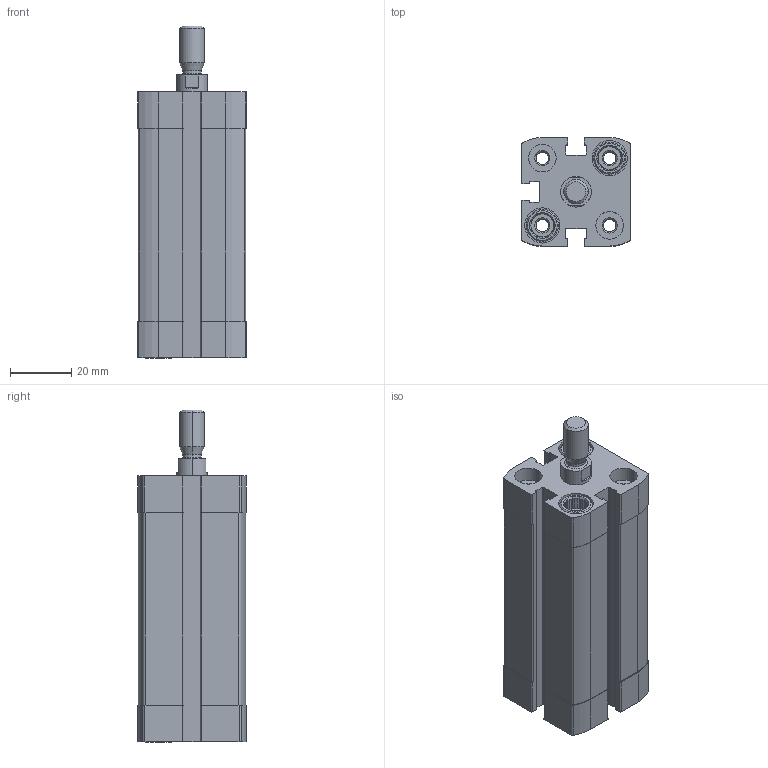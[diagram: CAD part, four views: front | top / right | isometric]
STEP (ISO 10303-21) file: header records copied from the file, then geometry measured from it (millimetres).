
FILE_DESCRIPTION (( 'STEP AP203' ), '1' );
FILE_NAME ('CCN20-50M.STEP', '2017-03-28T17:05:03', ( '' ), ( '' ), 'SwSTEP 2.0', 'SolidWorks 2016', '' );
FILE_SCHEMA (( 'CONFIG_CONTROL_DESIGN' ));
Length unit declared in the file: millimetre
Products named in the file (3): CCN20-50M; CCN50---(Z); CCN50(KS)
Assembly tree (2 placements, depth 2):
  CCN20-50M
    CCN50---(Z)
    CCN50(KS)
Bounding box: 35.5 x 35.5 x 108.5 mm (x, y, z)
Volume: 77729.3 mm3; surface area: 33286.1 mm2
Topology: 2 solids, 2 shells, 409 faces, 1076 edges, 702 vertices
Faces by surface type: plane 231, cylinder 134, cone 40, bspline 4
Entity records: 13153 total; most frequent: CARTESIAN_POINT 2552, DIRECTION 2206, ORIENTED_EDGE 2152, EDGE_CURVE 1076, AXIS2_PLACEMENT_3D 820, VERTEX_POINT 702, VECTOR 566, LINE 566
